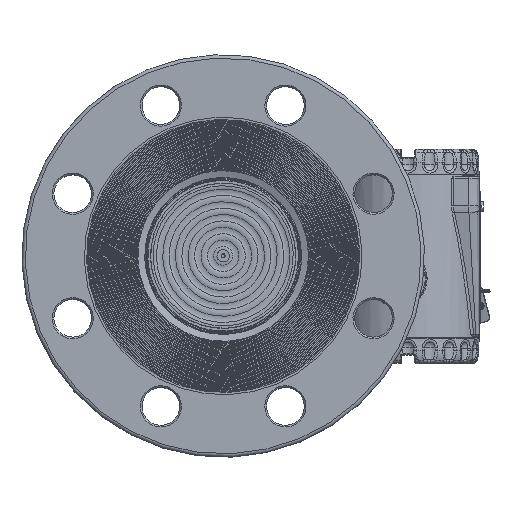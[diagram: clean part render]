
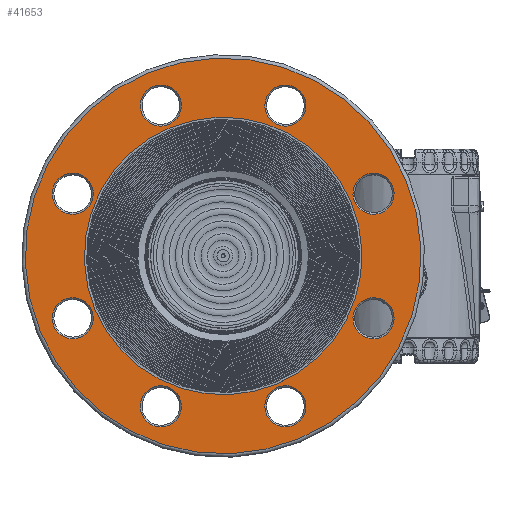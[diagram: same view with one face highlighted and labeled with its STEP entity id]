
A CAD part, top view. The second image highlights one B-rep face of the part: STEP entity #41653.
In plain terms, the highlighted planar face has unit normal (0, 0, 1).
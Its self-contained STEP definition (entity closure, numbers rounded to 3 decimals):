
#695=FACE_BOUND('',#6947,.T.);
#696=FACE_BOUND('',#6948,.T.);
#697=FACE_BOUND('',#6949,.T.);
#698=FACE_BOUND('',#6950,.T.);
#699=FACE_BOUND('',#6951,.T.);
#700=FACE_BOUND('',#6952,.T.);
#701=FACE_BOUND('',#6953,.T.);
#702=FACE_BOUND('',#6954,.T.);
#703=FACE_BOUND('',#6955,.T.);
#2716=PLANE('',#46342);
#4150=FACE_OUTER_BOUND('',#6946,.T.);
#6946=EDGE_LOOP('',(#31864));
#6947=EDGE_LOOP('',(#31865));
#6948=EDGE_LOOP('',(#31866));
#6949=EDGE_LOOP('',(#31867));
#6950=EDGE_LOOP('',(#31868));
#6951=EDGE_LOOP('',(#31869));
#6952=EDGE_LOOP('',(#31870));
#6953=EDGE_LOOP('',(#31871));
#6954=EDGE_LOOP('',(#31872));
#6955=EDGE_LOOP('',(#31873));
#13791=CIRCLE('',#46341,115.5);
#13792=CIRCLE('',#46343,12.);
#13793=CIRCLE('',#46344,12.);
#13794=CIRCLE('',#46345,12.);
#13795=CIRCLE('',#46346,12.);
#13796=CIRCLE('',#46347,81.);
#13797=CIRCLE('',#46348,12.);
#13798=CIRCLE('',#46349,12.);
#13799=CIRCLE('',#46350,12.);
#13800=CIRCLE('',#46351,12.);
#18326=VERTEX_POINT('',#73750);
#18327=VERTEX_POINT('',#73754);
#18328=VERTEX_POINT('',#73756);
#18329=VERTEX_POINT('',#73758);
#18330=VERTEX_POINT('',#73760);
#18331=VERTEX_POINT('',#73762);
#18332=VERTEX_POINT('',#73764);
#18333=VERTEX_POINT('',#73766);
#18334=VERTEX_POINT('',#73768);
#18335=VERTEX_POINT('',#73770);
#23132=EDGE_CURVE('',#18326,#18326,#13791,.T.);
#23133=EDGE_CURVE('',#18327,#18327,#13792,.T.);
#23134=EDGE_CURVE('',#18328,#18328,#13793,.T.);
#23135=EDGE_CURVE('',#18329,#18329,#13794,.T.);
#23136=EDGE_CURVE('',#18330,#18330,#13795,.T.);
#23137=EDGE_CURVE('',#18331,#18331,#13796,.T.);
#23138=EDGE_CURVE('',#18332,#18332,#13797,.T.);
#23139=EDGE_CURVE('',#18333,#18333,#13798,.T.);
#23140=EDGE_CURVE('',#18334,#18334,#13799,.T.);
#23141=EDGE_CURVE('',#18335,#18335,#13800,.T.);
#31864=ORIENTED_EDGE('',*,*,#23132,.F.);
#31865=ORIENTED_EDGE('',*,*,#23133,.F.);
#31866=ORIENTED_EDGE('',*,*,#23134,.F.);
#31867=ORIENTED_EDGE('',*,*,#23135,.F.);
#31868=ORIENTED_EDGE('',*,*,#23136,.F.);
#31869=ORIENTED_EDGE('',*,*,#23137,.F.);
#31870=ORIENTED_EDGE('',*,*,#23138,.F.);
#31871=ORIENTED_EDGE('',*,*,#23139,.F.);
#31872=ORIENTED_EDGE('',*,*,#23140,.F.);
#31873=ORIENTED_EDGE('',*,*,#23141,.F.);
#41653=ADVANCED_FACE('',(#4150,#695,#696,#697,#698,#699,#700,#701,#702,
#703),#2716,.T.);
#46341=AXIS2_PLACEMENT_3D('',#73752,#54695,#54696);
#46342=AXIS2_PLACEMENT_3D('',#73753,#54697,#54698);
#46343=AXIS2_PLACEMENT_3D('',#73755,#54699,#54700);
#46344=AXIS2_PLACEMENT_3D('',#73757,#54701,#54702);
#46345=AXIS2_PLACEMENT_3D('',#73759,#54703,#54704);
#46346=AXIS2_PLACEMENT_3D('',#73761,#54705,#54706);
#46347=AXIS2_PLACEMENT_3D('',#73763,#54707,#54708);
#46348=AXIS2_PLACEMENT_3D('',#73765,#54709,#54710);
#46349=AXIS2_PLACEMENT_3D('',#73767,#54711,#54712);
#46350=AXIS2_PLACEMENT_3D('',#73769,#54713,#54714);
#46351=AXIS2_PLACEMENT_3D('',#73771,#54715,#54716);
#54695=DIRECTION('center_axis',(0.,0.,-1.));
#54696=DIRECTION('ref_axis',(-1.,0.,0.));
#54697=DIRECTION('center_axis',(0.,0.,1.));
#54698=DIRECTION('ref_axis',(1.,0.,0.));
#54699=DIRECTION('center_axis',(0.,0.,1.));
#54700=DIRECTION('ref_axis',(-0.707,0.707,0.));
#54701=DIRECTION('center_axis',(0.,0.,1.));
#54702=DIRECTION('ref_axis',(0.707,0.707,0.));
#54703=DIRECTION('center_axis',(0.,0.,1.));
#54704=DIRECTION('ref_axis',(-0.707,-0.707,0.));
#54705=DIRECTION('center_axis',(0.,0.,1.));
#54706=DIRECTION('ref_axis',(0.,-1.,0.));
#54707=DIRECTION('center_axis',(0.,0.,1.));
#54708=DIRECTION('ref_axis',(-1.,0.,0.));
#54709=DIRECTION('center_axis',(0.,0.,1.));
#54710=DIRECTION('ref_axis',(0.707,-0.707,0.));
#54711=DIRECTION('center_axis',(0.,0.,1.));
#54712=DIRECTION('ref_axis',(-1.,0.,0.));
#54713=DIRECTION('center_axis',(0.,0.,1.));
#54714=DIRECTION('ref_axis',(1.,0.,0.));
#54715=DIRECTION('center_axis',(0.,0.,1.));
#54716=DIRECTION('ref_axis',(0.,1.,0.));
#73750=CARTESIAN_POINT('',(115.5,0.,21.));
#73752=CARTESIAN_POINT('Origin',(0.,0.,21.));
#73753=CARTESIAN_POINT('Origin',(0.,0.,21.));
#73754=CARTESIAN_POINT('',(75.66,58.69,21.));
#73755=CARTESIAN_POINT('Origin',(67.175,67.175,21.));
#73756=CARTESIAN_POINT('',(58.69,-75.66,21.));
#73757=CARTESIAN_POINT('Origin',(67.175,-67.175,21.));
#73758=CARTESIAN_POINT('',(-58.69,75.66,21.));
#73759=CARTESIAN_POINT('Origin',(-67.175,67.175,21.));
#73760=CARTESIAN_POINT('',(-95.,12.,21.));
#73761=CARTESIAN_POINT('Origin',(-95.,0.,21.));
#73762=CARTESIAN_POINT('',(81.,0.,21.));
#73763=CARTESIAN_POINT('Origin',(0.,0.,21.));
#73764=CARTESIAN_POINT('',(-75.66,-58.69,21.));
#73765=CARTESIAN_POINT('Origin',(-67.175,-67.175,21.));
#73766=CARTESIAN_POINT('',(12.,95.,21.));
#73767=CARTESIAN_POINT('Origin',(0.,95.,21.));
#73768=CARTESIAN_POINT('',(-12.,-95.,21.));
#73769=CARTESIAN_POINT('Origin',(0.,-95.,21.));
#73770=CARTESIAN_POINT('',(95.,-12.,21.));
#73771=CARTESIAN_POINT('Origin',(95.,0.,21.));
